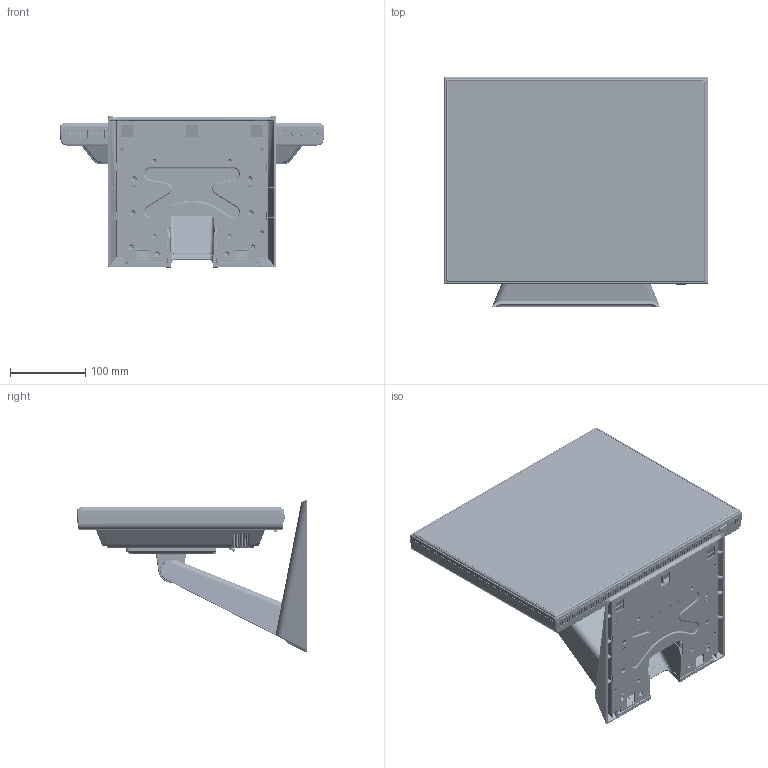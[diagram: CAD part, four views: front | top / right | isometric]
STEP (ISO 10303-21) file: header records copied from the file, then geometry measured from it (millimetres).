
FILE_DESCRIPTION (( 'STEP AP203' ), '1' );
FILE_NAME ('997-7413-01_A_PT1545P.STEP', '2021-07-27T16:31:34', ( '' ), ( '' ), 'SwSTEP 2.0', 'SolidWorks 2019', '' );
FILE_SCHEMA (( 'CONFIG_CONTROL_DESIGN' ));
Length unit declared in the file: millimetre
Products named in the file (1): 997-7413-01_A_PT1545P
Bounding box: 350.8 x 305.42 x 201.98 mm (x, y, z)
Surface area: 1152980.8 mm2 (no closed solid volume)
Topology: 0 solids, 21 shells, 14052 faces, 38247 edges, 24284 vertices
Faces by surface type: plane 7540, cylinder 4597, bspline 1113, torus 469, cone 283, sphere 50
Full cylindrical faces by diameter (mm): 1 x9, 1.2 x1, 2.261 x2, 2.5 x1, 3 x1, 3.25 x2, 3.5 x1, 3.6 x1, 4 x1, 6 x1
Entity records: 579959 total; most frequent: CARTESIAN_POINT 264064, ORIENTED_EDGE 76264, DIRECTION 49721, EDGE_CURVE 38156, VERTEX_POINT 24242, B_SPLINE_CURVE_WITH_KNOTS 16755, AXIS2_PLACEMENT_3D 16609, LINE 16503
